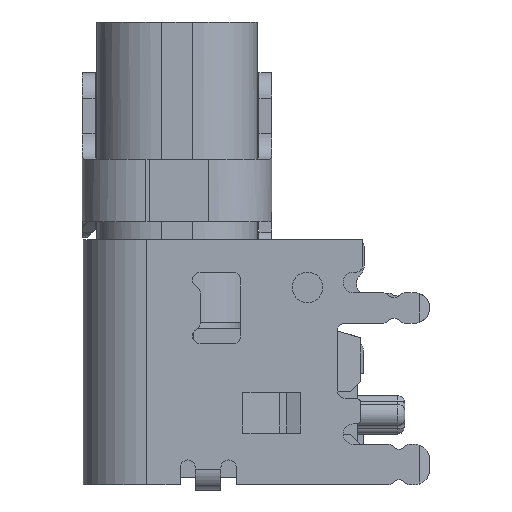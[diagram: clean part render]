
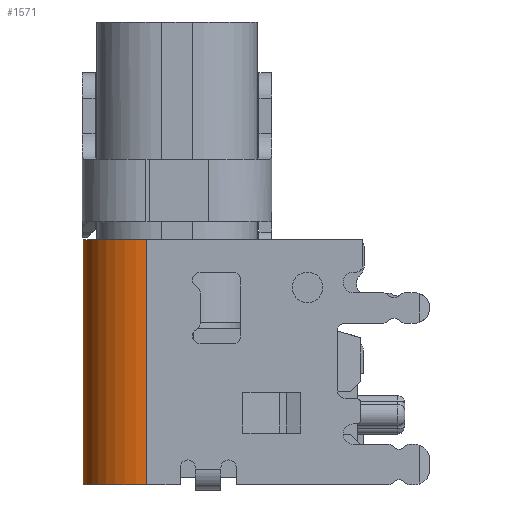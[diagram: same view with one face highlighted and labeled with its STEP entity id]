
A CAD part, left-side view. The second image highlights one B-rep face of the part: STEP entity #1571.
In plain terms, the highlighted cylindrical face has radius 1.25 mm (diameter 2.5 mm), a partial arc.
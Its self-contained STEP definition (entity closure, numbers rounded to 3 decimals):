
#1571 = ADVANCED_FACE ( 'NONE', ( #17852 ), #73346, .T. ) ;
#1691 = AXIS2_PLACEMENT_3D ( 'NONE', #28563, #34726, #40848 ) ;
#3539 = LINE ( 'NONE', #4313, #43792 ) ;
#3550 = EDGE_CURVE ( 'NONE', #34279, #45267, #47147, .T. ) ;
#3568 = CARTESIAN_POINT ( 'NONE',  ( 57.251, -0.545, -34.84 ) ) ;
#4313 = CARTESIAN_POINT ( 'NONE',  ( 57.251, -0.545, -34.84 ) ) ;
#9720 = DIRECTION ( 'NONE',  ( 0., 0., 1. ) ) ;
#12924 = AXIS2_PLACEMENT_3D ( 'NONE', #52837, #71533, #28505 ) ;
#14166 = VERTEX_POINT ( 'NONE', #53738 ) ;
#16359 = CARTESIAN_POINT ( 'NONE',  ( 56.001, -0.545, -34.84 ) ) ;
#17042 = CARTESIAN_POINT ( 'NONE',  ( 56.001, -1.795, -34.84 ) ) ;
#17120 = DIRECTION ( 'NONE',  ( 0., 0., 1. ) ) ;
#17852 = FACE_OUTER_BOUND ( 'NONE', #43068, .T. ) ;
#21665 = CIRCLE ( 'NONE', #12924, 1.25 ) ;
#24673 = VERTEX_POINT ( 'NONE', #3568 ) ;
#27814 = ORIENTED_EDGE ( 'NONE', *, *, #70529, .F. ) ;
#27984 = ORIENTED_EDGE ( 'NONE', *, *, #3550, .T. ) ;
#28505 = DIRECTION ( 'NONE',  ( 1., 0., 0. ) ) ;
#28563 = CARTESIAN_POINT ( 'NONE',  ( 56.001, -0.545, -30.02 ) ) ;
#32021 = ORIENTED_EDGE ( 'NONE', *, *, #73222, .T. ) ;
#34279 = VERTEX_POINT ( 'NONE', #57216 ) ;
#34532 = CIRCLE ( 'NONE', #1691, 1.25 ) ;
#34726 = DIRECTION ( 'NONE',  ( 0., 0., 1. ) ) ;
#35893 = CARTESIAN_POINT ( 'NONE',  ( 56.001, -1.795, -34.84 ) ) ;
#36323 = EDGE_CURVE ( 'NONE', #45267, #24673, #21665, .T. ) ;
#37538 = ORIENTED_EDGE ( 'NONE', *, *, #36323, .T. ) ;
#38814 = AXIS2_PLACEMENT_3D ( 'NONE', #16359, #9720, #65305 ) ;
#40848 = DIRECTION ( 'NONE',  ( 1., 0., 0. ) ) ;
#43068 = EDGE_LOOP ( 'NONE', ( #27814, #27984, #37538, #32021 ) ) ;
#43792 = VECTOR ( 'NONE', #17120, 1000. ) ;
#45267 = VERTEX_POINT ( 'NONE', #35893 ) ;
#47147 = LINE ( 'NONE', #17042, #65287 ) ;
#52837 = CARTESIAN_POINT ( 'NONE',  ( 56.001, -0.545, -34.84 ) ) ;
#53738 = CARTESIAN_POINT ( 'NONE',  ( 57.251, -0.545, -30.02 ) ) ;
#57216 = CARTESIAN_POINT ( 'NONE',  ( 56.001, -1.795, -30.02 ) ) ;
#59871 = DIRECTION ( 'NONE',  ( 0., 0., -1. ) ) ;
#65287 = VECTOR ( 'NONE', #59871, 1000. ) ;
#65305 = DIRECTION ( 'NONE',  ( 1., 0., 0. ) ) ;
#70529 = EDGE_CURVE ( 'NONE', #34279, #14166, #34532, .T. ) ;
#71533 = DIRECTION ( 'NONE',  ( 0., 0., 1. ) ) ;
#73222 = EDGE_CURVE ( 'NONE', #24673, #14166, #3539, .T. ) ;
#73346 = CYLINDRICAL_SURFACE ( 'NONE', #38814, 1.25 ) ;
